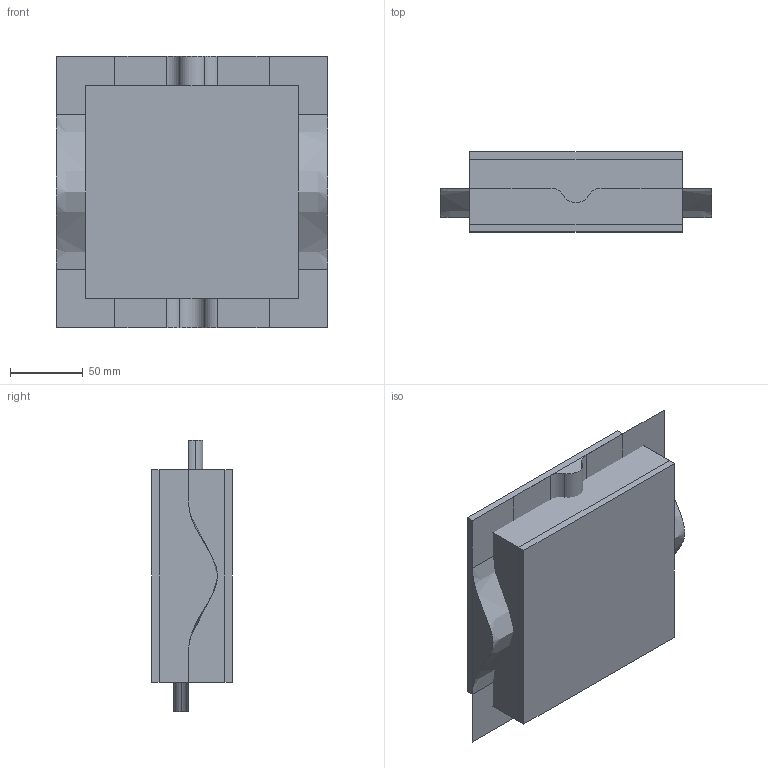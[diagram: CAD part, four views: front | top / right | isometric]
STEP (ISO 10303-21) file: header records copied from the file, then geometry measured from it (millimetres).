
FILE_DESCRIPTION(('CATIA V5 STEP Exchange'),'2;1');
FILE_NAME('C:\_Andres\UNIVERSIDAD\IQS\ASIGNATURAS\DAO\EXF\EXF-16172c\2inicio\Campmany_Monforte_Ej02_v6.stp','2017-03-05T15:45:17+00:00',('none'),('none'),'CATIA Version 5-6 Release 2014 SP1 HF18','CATIA V5 STEP AP203','none');
FILE_SCHEMA(('CONFIG_CONTROL_DESIGN'));
Length unit declared in the file: millimetre
Products named in the file (1): Campmany_Monforte_Ej02_v6
Bounding box: 186 x 55 x 186 mm (x, y, z)
Surface area: 220034.4 mm2
Topology: 3 solids, 10 shells, 72 faces, 205 edges, 150 vertices
Faces by surface type: bspline 32, plane 32, cylinder 6, extrusion 2
Entity records: 6878 total; most frequent: CARTESIAN_POINT 5561, ORIENTED_EDGE 288, DIRECTION 151, EDGE_CURVE 132, VERTEX_POINT 84, VECTOR 77, LINE 75, ADVANCED_FACE 72
